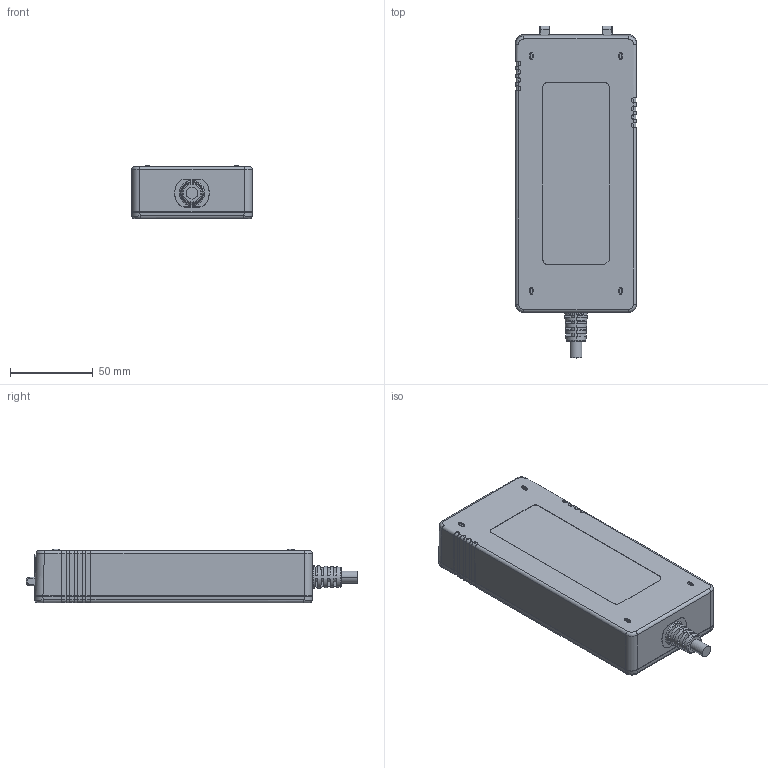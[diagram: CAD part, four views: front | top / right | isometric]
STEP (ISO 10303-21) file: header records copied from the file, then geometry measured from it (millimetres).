
FILE_DESCRIPTION (( 'STEP AP214' ), '1' );
FILE_NAME ('APM240C2-8.STEP', '2025-09-02T02:19:40', ( '' ), ( '' ), 'SwSTEP 2.0', 'SolidWorks 2024', '' );
FILE_SCHEMA (( 'AUTOMOTIVE_DESIGN' ));
Length unit declared in the file: millimetre
Products named in the file (28): APM240D-SRP_ASM_6_ASM_4_ASM_1_2_ASM; LOWER_7_8_12_42_1_12_5_1_17_1_2; APM240D-XP-A0_ASM_9_ASM_1_1_ASM; C8_ASM_ASM; PRT0007_1_1; APM240D-WK_ASM_52_ASM_3_ASM_1_2_ASM; APM240-HSMN_4_1_1_1_1_1_2_1_1_1; APM240C2-8; APM240-PCB-A1_2_1_1_1_1_1_1_1_1; PIN_SZ_1_1_1_1_1_1_1_1_1_1_1; CK04_1_1; APM240C2-8_1; C8-BO1150121_ASM_ASM_1_ASM_1_ASM; C8-BO1150121_ASM_ASM_1_ASM_1_AS_ASM; BO390121_1_ASM_1_1_ASM_1_ASM_1__ASM; APM240D-HS3_12_8_3_1_1_1_1_1__1; SR-JD_3_1_1_1_2_1_1; ASM0001_ASM_1_ASM_1_ASM_1_1_ASM_ASM; APM240D-HS2_17_6_2_1_1_1_1_1__1; APM240D-XP-A0_ASM_ASM_1_1_ASM; 240D-20231114-01_1_1_1_1_1_1__1; BO390121_ASM_1_1_ASM_1_ASM_1_AS_ASM; DB09_1_1_1_1_1_1; 265DZ-LOWER_2_1_1_5_7_3_37_1; C8__ASM_ASM_1_ASM; APM240D-WK20231016_ASM_37_ASM_2_ASM; INLET_C8_1_1_1_1_1_1; APM240D-WK20231031_ASM_21_ASM_1_ASM
Assembly tree (29 placements, depth 10):
  APM240C2-8
    APM240C2-8_1
      APM240D-XP-A0_ASM_ASM_1_1_ASM
        APM240D-XP-A0_ASM_9_ASM_1_1_ASM
          APM240D-WK20231031_ASM_21_ASM_1_ASM
            APM240D-WK20231016_ASM_37_ASM_2_ASM
              APM240D-WK_ASM_52_ASM_3_ASM_1_2_ASM
                APM240D-SRP_ASM_6_ASM_4_ASM_1_2_ASM
                  APM240D-HS2_17_6_2_1_1_1_1_1__1
                  PIN_SZ_1_1_1_1_1_1_1_1_1_1_1  x2
                  APM240D-HS3_12_8_3_1_1_1_1_1__1
              265DZ-LOWER_2_1_1_5_7_3_37_1
              LOWER_7_8_12_42_1_12_5_1_17_1_2
              APM240-HSMN_4_1_1_1_1_1_2_1_1_1
            APM240-PCB-A1_2_1_1_1_1_1_1_1_1
            240D-20231114-01_1_1_1_1_1_1__1
            SR-JD_3_1_1_1_2_1_1
      C8_ASM_ASM
        C8__ASM_ASM_1_ASM
          C8-BO1150121_ASM_ASM_1_ASM_1_ASM
            C8-BO1150121_ASM_ASM_1_ASM_1_AS_ASM
              ASM0001_ASM_1_ASM_1_ASM_1_1_ASM_ASM
                BO390121_ASM_1_1_ASM_1_ASM_1_AS_ASM
                  BO390121_1_ASM_1_1_ASM_1_ASM_1__ASM
                    DB09_1_1_1_1_1_1  x2
            CK04_1_1
            PRT0007_1_1
Bounding box: 73 x 200.86 x 32.3 mm (x, y, z)
Volume: 45710.2 mm3; surface area: 170512.5 mm2
Topology: 11 solids, 21 shells, 3040 faces, 8306 edges, 5464 vertices
Faces by surface type: plane 2310, cylinder 558, cone 90, torus 42, bspline 34, sphere 6
Entity records: 96045 total; most frequent: CARTESIAN_POINT 22323, ORIENTED_EDGE 15794, DIRECTION 14080, EDGE_CURVE 7914, LINE 6226, VECTOR 6226, VERTEX_POINT 5207, AXIS2_PLACEMENT_3D 3927
